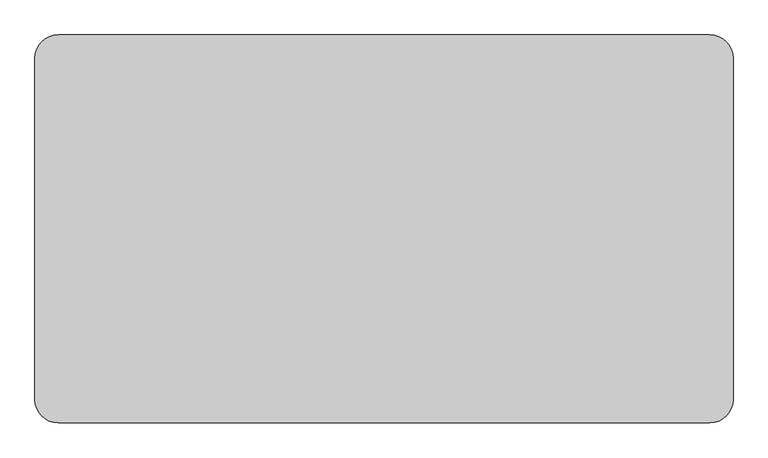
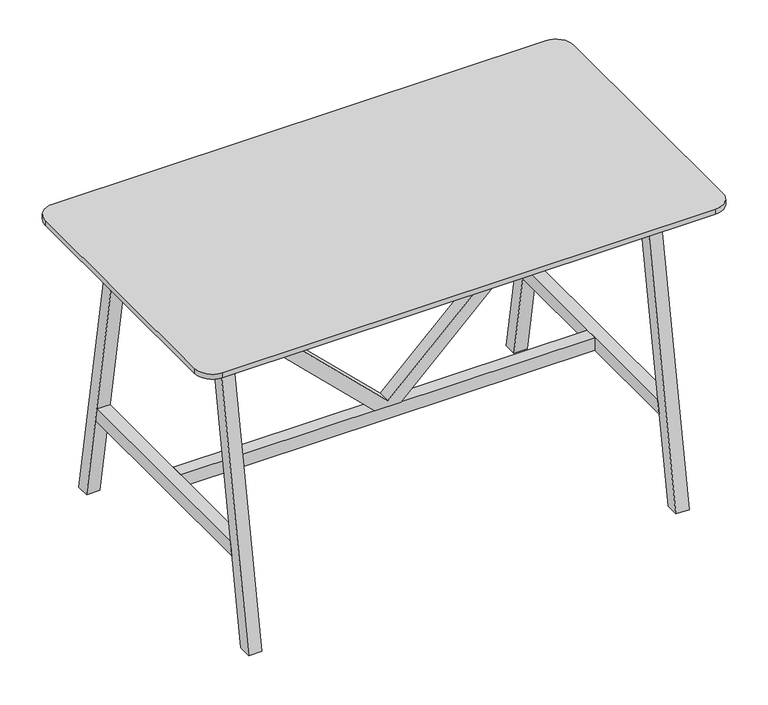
"""IFC4 building model written with IfcOpenShell, lengths in millimetres: furniture geometry, BDG_BossDesign_Tbls_AgentTables4Legs : AGE-HT-1800-1000-3D."""

from ifc_helpers import new_model, si_unit, point, frame, frame_2d, origin, place, context, project, spatial, polyline, circle_curve, trimmed, segment, composite_curve, outline, extrude, source, transform, mapped, element, save


def furniture_39fc326c(model_context):
    return source(origin(), model_context, "Body", "SweptSolid", [
        extrude(outline(polyline([(1029.0, -705.0), (985.6193848, -705.0), (345.0, -44.0212994), (345.0, 44.0212994), (985.6193848, 705.0), (1029.0, 705.0), (1029.0, 685.1023991), (364.9999695, 0.0), (1029.0, -685.1023991), (1029.0, -705.0)])), frame((0.0, -22.5000305, 0.0), z_axis=(0.0, 1.0, 0.0), x_axis=(0.0, 0.0, 1.0)), (0.0, 0.0, 1.0), 45.000061),
        extrude(outline(polyline([(-394.7139143, 345.0), (394.7139143, 345.0), (402.5773161, 300.0), (-402.5773161, 300.0), (-394.7139143, 345.0)])), frame((705.0, 0.0, 0.0), z_axis=(1.0, 0.0, 0.0), x_axis=(0.0, 1.0, 0.0)), (0.0, 0.0, 1.0), 45.0),
        extrude(outline(polyline([(500.0, 0.0), (454.9999949, 0.0), (285.5, 970.0), (330.5000051, 970.0), (500.0, 0.0)])), frame((-750.0, 0.0, 0.0), z_axis=(1.0, 0.0, 0.0), x_axis=(0.0, 1.0, 0.0)), (0.0, 0.0, 1.0), 45.0),
        extrude(outline(polyline([(-500.0, 0.0), (-330.5000051, 970.0), (-285.5, 970.0), (-454.9999949, 0.0), (-500.0, 0.0)])), frame((-750.0, 0.0, 0.0), z_axis=(1.0, 0.0, 0.0), x_axis=(0.0, 1.0, 0.0)), (0.0, 0.0, 1.0), 45.0),
        extrude(outline(polyline([(-279.5, 1032.0), (279.5, 1032.0), (297.9691272, 960.0), (-297.9691272, 960.0), (-279.5, 1032.0)])), frame((288.0, 0.0, 0.0), z_axis=(1.0, 0.0, 0.0), x_axis=(0.0, 1.0, 0.0)), (0.0, 0.0, 1.0), 24.0),
        extrude(outline(polyline([(-394.7139143, 345.0), (394.7139143, 345.0), (402.5773161, 300.0), (-402.5773161, 300.0), (-394.7139143, 345.0)])), frame((-750.0, 0.0, 0.0), z_axis=(1.0, 0.0, 0.0), x_axis=(0.0, 1.0, 0.0)), (0.0, 0.0, 1.0), 45.0),
        extrude(outline(polyline([(-279.5, 1032.0), (279.5, 1032.0), (297.9691272, 960.0), (-297.9691272, 960.0), (-279.5, 1032.0)])), frame((-312.0, 0.0, 0.0), z_axis=(1.0, 0.0, 0.0), x_axis=(0.0, 1.0, 0.0)), (0.0, 0.0, 1.0), 24.0),
        extrude(outline(polyline([(-326.6006165, 944.973938), (-304.2770691, 1032.0), (-279.5, 1032.0), (-301.8235474, 944.973938), (-326.6006165, 944.973938)])), frame((-705.0, 0.0, 0.0), z_axis=(1.0, 0.0, 0.0), x_axis=(0.0, 1.0, 0.0)), (0.0, 0.0, 1.0), 1410.0),
        extrude(outline(polyline([(326.6006165, 944.973938), (301.8235474, 944.973938), (279.5, 1032.0), (304.2770691, 1032.0), (326.6006165, 944.973938)])), frame((-705.0, 0.0, 0.0), z_axis=(1.0, 0.0, 0.0), x_axis=(0.0, 1.0, 0.0)), (0.0, 0.0, 1.0), 1410.0),
        extrude(outline(polyline([(499.7999878, 0.0), (454.7999827, 0.0), (285.5, 970.0), (330.5000051, 970.0), (499.7999878, 0.0)])), frame((705.0, 0.0, 0.0), z_axis=(1.0, 0.0, 0.0), x_axis=(0.0, 1.0, 0.0)), (0.0, 0.0, 1.0), 45.0),
        extrude(outline(polyline([(-499.7999878, 0.0), (-330.5000051, 970.0), (-285.5, 970.0), (-454.7999827, 0.0), (-499.7999878, 0.0)])), frame((705.0, 0.0, 0.0), z_axis=(1.0, 0.0, 0.0), x_axis=(0.0, 1.0, 0.0)), (0.0, 0.0, 1.0), 45.0),
        extrude(outline(polyline([(705.0, 22.5000305), (705.0, -22.5000305), (-705.0, -22.5000305), (-705.0, 22.5000305), (705.0, 22.5000305)])), frame((0.0, 0.0, 300.0), z_axis=(0.0, 0.0, 1.0), x_axis=(1.0, 0.0, 0.0)), (0.0, 0.0, 1.0), 45.0),
        extrude(outline(composite_curve([segment(trimmed(circle_curve(frame_2d((840.0, 440.0)), 60.0), [point((840.0, 500.0))], [point((900.0, 440.0))], False, "CARTESIAN"), True, "CONTINUOUS"), segment(polyline([(900.0, 440.0), (900.0, -440.0)]), True, "CONTINUOUS"), segment(trimmed(circle_curve(frame_2d((840.0, -440.0)), 60.0), [point((900.0, -440.0))], [point((840.0, -500.0))], False, "CARTESIAN"), True, "CONTINUOUS"), segment(polyline([(840.0, -500.0), (-840.0, -500.0)]), True, "CONTINUOUS"), segment(trimmed(circle_curve(frame_2d((-840.0, -440.0)), 60.0), [point((-840.0, -500.0))], [point((-900.0, -440.0))], False, "CARTESIAN"), True, "CONTINUOUS"), segment(polyline([(-900.0, -440.0), (-900.0, 440.0)]), True, "CONTINUOUS"), segment(trimmed(circle_curve(frame_2d((-840.0, 440.0)), 60.0), [point((-900.0, 440.0))], [point((-840.0, 500.0))], False, "CARTESIAN"), True, "CONTINUOUS"), segment(polyline([(-840.0, 500.0), (840.0, 500.0)]), True, "CONTINUOUS")], self_intersect=False)), frame((0.0, 0.0, 1032.0), z_axis=(0.0, 0.0, 1.0), x_axis=(1.0, 0.0, 0.0)), (0.0, 0.0, 1.0), 18.0),
    ])


if __name__ == "__main__":
    model = new_model("IFC4")
    model_context = context("Model", 3, world=origin())
    ifc_project = project(units=[si_unit("LENGTHUNIT", "METRE", prefix="MILLI")], contexts=[model_context])
    site = spatial("IfcSite", under=ifc_project)
    building = spatial("IfcBuilding", under=site)
    placement = place(None, origin())
    furniture_shape = furniture_39fc326c(model_context)
    element("IfcFurniture", 1, ObjectType="BDG_BossDesign_Tbls_AgentTables4Legs : AGE-HT-1800-1000-3D", at=placement, inside=building, context=model_context, shape_type="MappedRepresentation", body=[
        mapped(furniture_shape, transform((0.0, 0.0, 0.0), x_axis=(1.0, 0.0, 0.0), y_axis=(0.0, 1.0, 0.0), z_axis=(0.0, 0.0, 1.0))),
    ])
    save(model, "model.ifc")
